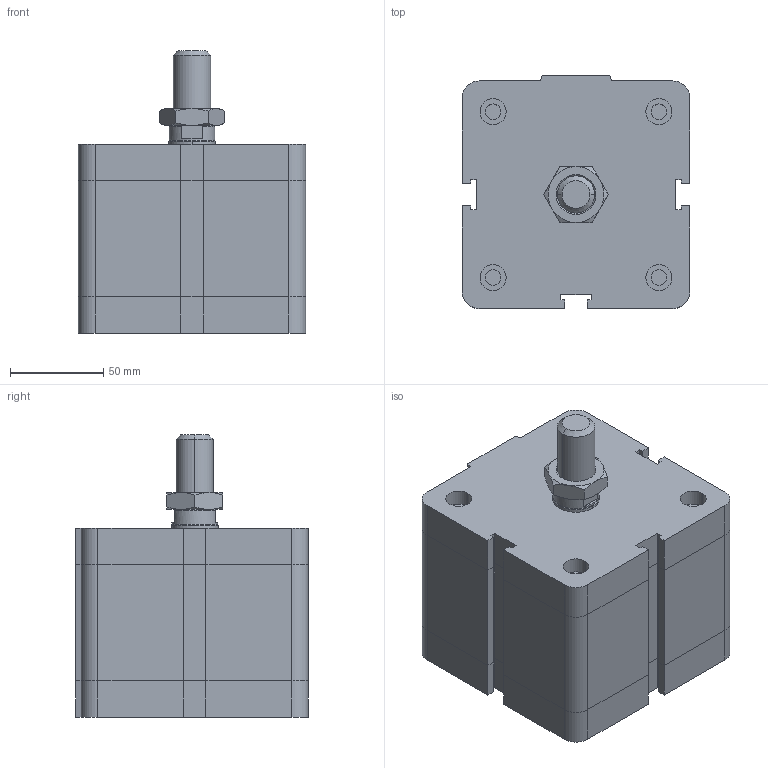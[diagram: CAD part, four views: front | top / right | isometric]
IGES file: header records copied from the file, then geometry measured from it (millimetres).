
Global section: file name: No Iges File Name specified; native system: Autodesk Inventor 2009; preprocessor: AutoDesk Inventor Iges Exporter R2009; author: rivolro1; date: 20081219.160941; units: millimetre
Bounding box: 122 x 125 x 151.5 mm (x, y, z)
Volume: 1485887.8 mm3; surface area: 106873.5 mm2
Topology: 3 solids, 3 shells, 216 faces, 472 edges, 282 vertices
Faces by surface type: plane 121, bspline 37, cylinder 20, cone 20, revolution 18
